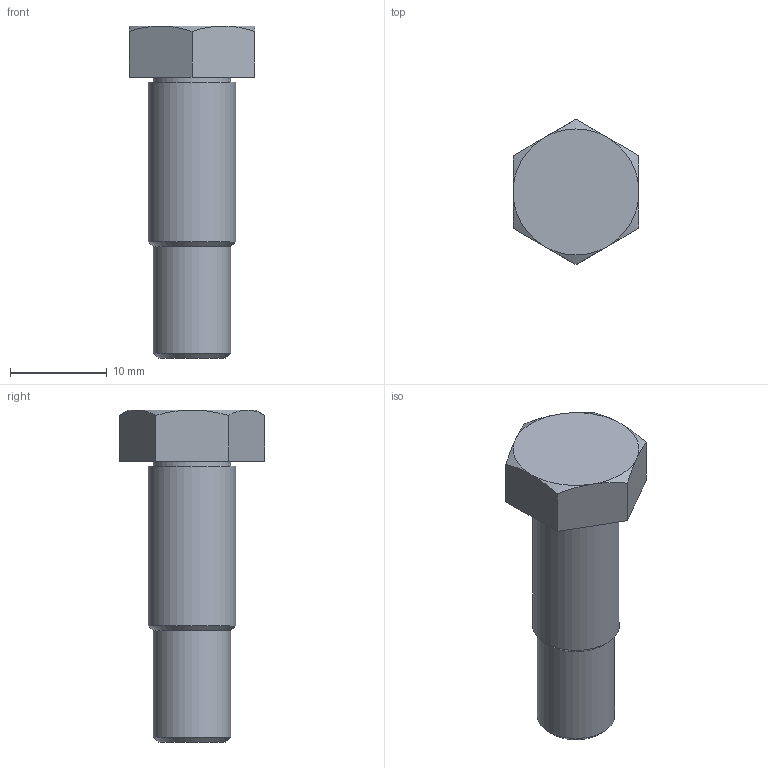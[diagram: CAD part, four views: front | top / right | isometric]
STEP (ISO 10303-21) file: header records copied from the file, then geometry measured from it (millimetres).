
FILE_DESCRIPTION(/* description */ (''),/* implementation_level */ '2;1');
FILE_NAME(/* name */ '',/* time_stamp */ '2024-04-08T11:14:33+09:00',/* author */ ('jhkim'),/* organization */ (''),/* preprocessor_version */ 'ST-DEVELOPER v20',/* originating_system */ 'Autodesk Inventor 2025',/* authorisation */ '');
FILE_SCHEMA (('AUTOMOTIVE_DESIGN { 1 0 10303 214 3 1 1 }'));
Length unit declared in the file: millimetre
Products named in the file (1): 힌지 축
Bounding box: 13 x 15.01 x 34.3 mm (x, y, z)
Volume: 2451.7 mm3; surface area: 1317.5 mm2
Topology: 1 solids, 1 shells, 21 faces, 48 edges, 31 vertices
Faces by surface type: plane 10, cone 8, cylinder 3
Full cylindrical faces by diameter (mm): 8 x2, 9 x1
Entity records: 622 total; most frequent: CARTESIAN_POINT 125, ORIENTED_EDGE 96, DIRECTION 93, EDGE_CURVE 48, AXIS2_PLACEMENT_3D 35, VERTEX_POINT 31, EDGE_LOOP 23, LINE 23
